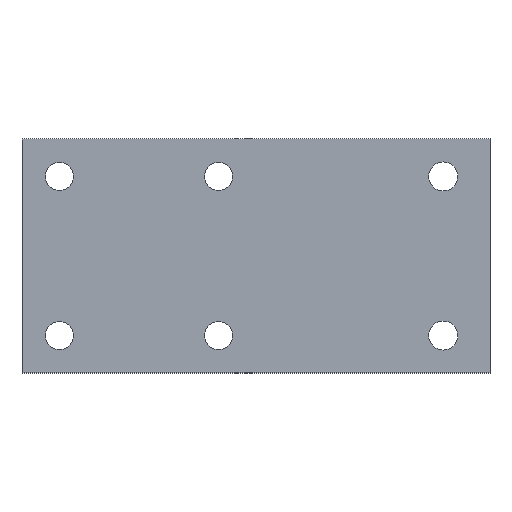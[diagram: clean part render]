
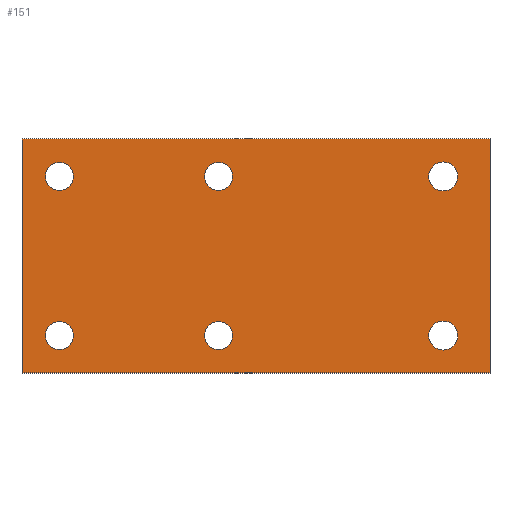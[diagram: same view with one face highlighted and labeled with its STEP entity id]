
A CAD part, top view. The second image highlights one B-rep face of the part: STEP entity #151.
In plain terms, the highlighted planar face has unit normal (0, 0, 1).
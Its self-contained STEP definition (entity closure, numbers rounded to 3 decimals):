
#1 = DIRECTION ( 'NONE',  ( 0., 0., 1. ) ) ;
#3 = ORIENTED_EDGE ( 'NONE', *, *, #100, .T. ) ;
#11 = CARTESIAN_POINT ( 'NONE',  ( 4., 21., 0.3 ) ) ;
#30 = VERTEX_POINT ( 'NONE', #414 ) ;
#31 = DIRECTION ( 'NONE',  ( 1., 0., 0. ) ) ;
#37 = CIRCLE ( 'NONE', #263, 1.5 ) ;
#43 = CARTESIAN_POINT ( 'NONE',  ( 0., 0., 0.3 ) ) ;
#45 = DIRECTION ( 'NONE',  ( 1., 0., 0. ) ) ;
#46 = DIRECTION ( 'NONE',  ( 1., 0., 0. ) ) ;
#51 = AXIS2_PLACEMENT_3D ( 'NONE', #595, #477, #121 ) ;
#55 = CARTESIAN_POINT ( 'NONE',  ( 5.5, 21., 0.3 ) ) ;
#57 = CARTESIAN_POINT ( 'NONE',  ( 0., 25., 0.3 ) ) ;
#60 = VERTEX_POINT ( 'NONE', #202 ) ;
#74 = VERTEX_POINT ( 'NONE', #57 ) ;
#79 = DIRECTION ( 'NONE',  ( 1., 0., 0. ) ) ;
#83 = EDGE_CURVE ( 'NONE', #353, #119, #613, .T. ) ;
#91 = AXIS2_PLACEMENT_3D ( 'NONE', #421, #113, #375 ) ;
#92 = VECTOR ( 'NONE', #361, 1000. ) ;
#93 = CIRCLE ( 'NONE', #456, 1.55 ) ;
#97 = CARTESIAN_POINT ( 'NONE',  ( 43.45, 4., 0.3 ) ) ;
#98 = CARTESIAN_POINT ( 'NONE',  ( 0., 0., 0.3 ) ) ;
#100 = EDGE_CURVE ( 'NONE', #223, #296, #410, .T. ) ;
#101 = CARTESIAN_POINT ( 'NONE',  ( 0., 25., 0.3 ) ) ;
#108 = AXIS2_PLACEMENT_3D ( 'NONE', #582, #342, #550 ) ;
#113 = DIRECTION ( 'NONE',  ( 0., 0., 1. ) ) ;
#115 = CIRCLE ( 'NONE', #596, 1.5 ) ;
#117 = DIRECTION ( 'NONE',  ( 0., 0., 1. ) ) ;
#119 = VERTEX_POINT ( 'NONE', #487 ) ;
#121 = DIRECTION ( 'NONE',  ( 1., 0., 0. ) ) ;
#124 = DIRECTION ( 'NONE',  ( -1., 0., 0. ) ) ;
#125 = CIRCLE ( 'NONE', #404, 1.5 ) ;
#128 = LINE ( 'NONE', #101, #408 ) ;
#134 = DIRECTION ( 'NONE',  ( 0., 0., 1. ) ) ;
#135 = ORIENTED_EDGE ( 'NONE', *, *, #292, .T. ) ;
#137 = EDGE_LOOP ( 'NONE', ( #335, #578 ) ) ;
#138 = VERTEX_POINT ( 'NONE', #225 ) ;
#143 = AXIS2_PLACEMENT_3D ( 'NONE', #645, #117, #79 ) ;
#151 = ADVANCED_FACE ( 'NONE', ( #333, #586, #649, #636, #215, #379, #175 ), #433, .F. ) ;
#152 = EDGE_CURVE ( 'NONE', #446, #552, #196, .T. ) ;
#161 = ORIENTED_EDGE ( 'NONE', *, *, #671, .F. ) ;
#166 = CARTESIAN_POINT ( 'NONE',  ( 50., 0., 0.3 ) ) ;
#172 = EDGE_CURVE ( 'NONE', #558, #395, #436, .T. ) ;
#175 = FACE_BOUND ( 'NONE', #508, .T. ) ;
#179 = ORIENTED_EDGE ( 'NONE', *, *, #250, .F. ) ;
#180 = CIRCLE ( 'NONE', #444, 1.55 ) ;
#189 = ORIENTED_EDGE ( 'NONE', *, *, #585, .F. ) ;
#192 = ORIENTED_EDGE ( 'NONE', *, *, #300, .F. ) ;
#196 = CIRCLE ( 'NONE', #143, 1.5 ) ;
#197 = EDGE_CURVE ( 'NONE', #281, #370, #317, .T. ) ;
#202 = CARTESIAN_POINT ( 'NONE',  ( 22.5, 4., 0.3 ) ) ;
#205 = AXIS2_PLACEMENT_3D ( 'NONE', #11, #219, #675 ) ;
#206 = CARTESIAN_POINT ( 'NONE',  ( 50., 25., 0.3 ) ) ;
#215 = FACE_BOUND ( 'NONE', #547, .T. ) ;
#218 = DIRECTION ( 'NONE',  ( 0., 0., 1. ) ) ;
#219 = DIRECTION ( 'NONE',  ( 0., 0., 1. ) ) ;
#220 = EDGE_CURVE ( 'NONE', #60, #30, #525, .T. ) ;
#222 = EDGE_CURVE ( 'NONE', #370, #281, #236, .T. ) ;
#223 = VERTEX_POINT ( 'NONE', #406 ) ;
#225 = CARTESIAN_POINT ( 'NONE',  ( 2.5, 4., 0.3 ) ) ;
#227 = ORIENTED_EDGE ( 'NONE', *, *, #616, .T. ) ;
#236 = CIRCLE ( 'NONE', #205, 1.5 ) ;
#240 = EDGE_LOOP ( 'NONE', ( #651, #663 ) ) ;
#245 = ORIENTED_EDGE ( 'NONE', *, *, #220, .F. ) ;
#250 = EDGE_CURVE ( 'NONE', #552, #446, #125, .T. ) ;
#263 = AXIS2_PLACEMENT_3D ( 'NONE', #570, #461, #45 ) ;
#270 = ORIENTED_EDGE ( 'NONE', *, *, #172, .F. ) ;
#273 = CARTESIAN_POINT ( 'NONE',  ( 45., 21., 0.3 ) ) ;
#281 = VERTEX_POINT ( 'NONE', #55 ) ;
#285 = VERTEX_POINT ( 'NONE', #678 ) ;
#286 = DIRECTION ( 'NONE',  ( 0., 0., 1. ) ) ;
#292 = EDGE_CURVE ( 'NONE', #74, #391, #513, .T. ) ;
#296 = VERTEX_POINT ( 'NONE', #206 ) ;
#300 = EDGE_CURVE ( 'NONE', #30, #60, #37, .T. ) ;
#305 = CARTESIAN_POINT ( 'NONE',  ( 2.5, 21., 0.3 ) ) ;
#309 = DIRECTION ( 'NONE',  ( 1., 0., 0. ) ) ;
#310 = CARTESIAN_POINT ( 'NONE',  ( 43.45, 21., 0.3 ) ) ;
#311 = DIRECTION ( 'NONE',  ( 1., 0., 0. ) ) ;
#316 = CIRCLE ( 'NONE', #646, 1.5 ) ;
#317 = CIRCLE ( 'NONE', #622, 1.5 ) ;
#320 = AXIS2_PLACEMENT_3D ( 'NONE', #389, #483, #429 ) ;
#326 = CARTESIAN_POINT ( 'NONE',  ( 22.5, 21., 0.3 ) ) ;
#333 = FACE_OUTER_BOUND ( 'NONE', #449, .T. ) ;
#335 = ORIENTED_EDGE ( 'NONE', *, *, #222, .F. ) ;
#337 = DIRECTION ( 'NONE',  ( 1., 0., 0. ) ) ;
#342 = DIRECTION ( 'NONE',  ( 0., 0., -1. ) ) ;
#343 = VECTOR ( 'NONE', #499, 1000. ) ;
#344 = EDGE_LOOP ( 'NONE', ( #161, #270 ) ) ;
#346 = EDGE_CURVE ( 'NONE', #391, #223, #418, .T. ) ;
#353 = VERTEX_POINT ( 'NONE', #97 ) ;
#361 = DIRECTION ( 'NONE',  ( 1., 0., 0. ) ) ;
#362 = DIRECTION ( 'NONE',  ( 1., 0., 0. ) ) ;
#370 = VERTEX_POINT ( 'NONE', #305 ) ;
#372 = CARTESIAN_POINT ( 'NONE',  ( 0., 0., 0.3 ) ) ;
#375 = DIRECTION ( 'NONE',  ( 1., 0., 0. ) ) ;
#376 = EDGE_CURVE ( 'NONE', #285, #138, #316, .T. ) ;
#379 = FACE_BOUND ( 'NONE', #344, .T. ) ;
#387 = DIRECTION ( 'NONE',  ( 0., 0., 1. ) ) ;
#389 = CARTESIAN_POINT ( 'NONE',  ( 21., 4., 0.3 ) ) ;
#391 = VERTEX_POINT ( 'NONE', #98 ) ;
#395 = VERTEX_POINT ( 'NONE', #310 ) ;
#404 = AXIS2_PLACEMENT_3D ( 'NONE', #469, #1, #309 ) ;
#406 = CARTESIAN_POINT ( 'NONE',  ( 50., 0., 0.3 ) ) ;
#408 = VECTOR ( 'NONE', #124, 1000. ) ;
#409 = CARTESIAN_POINT ( 'NONE',  ( 4., 4., 0.3 ) ) ;
#410 = LINE ( 'NONE', #166, #343 ) ;
#414 = CARTESIAN_POINT ( 'NONE',  ( 19.5, 4., 0.3 ) ) ;
#415 = DIRECTION ( 'NONE',  ( 0., -1., 0. ) ) ;
#418 = LINE ( 'NONE', #372, #92 ) ;
#421 = CARTESIAN_POINT ( 'NONE',  ( 45., 4., 0.3 ) ) ;
#428 = CARTESIAN_POINT ( 'NONE',  ( 4., 4., 0.3 ) ) ;
#429 = DIRECTION ( 'NONE',  ( 1., 0., 0. ) ) ;
#433 = PLANE ( 'NONE',  #108 ) ;
#436 = CIRCLE ( 'NONE', #51, 1.55 ) ;
#444 = AXIS2_PLACEMENT_3D ( 'NONE', #504, #134, #31 ) ;
#446 = VERTEX_POINT ( 'NONE', #326 ) ;
#449 = EDGE_LOOP ( 'NONE', ( #135, #490, #3, #227 ) ) ;
#456 = AXIS2_PLACEMENT_3D ( 'NONE', #273, #218, #311 ) ;
#461 = DIRECTION ( 'NONE',  ( 0., 0., 1. ) ) ;
#469 = CARTESIAN_POINT ( 'NONE',  ( 21., 21., 0.3 ) ) ;
#477 = DIRECTION ( 'NONE',  ( 0., 0., 1. ) ) ;
#483 = DIRECTION ( 'NONE',  ( 0., 0., 1. ) ) ;
#487 = CARTESIAN_POINT ( 'NONE',  ( 46.55, 4., 0.3 ) ) ;
#490 = ORIENTED_EDGE ( 'NONE', *, *, #346, .T. ) ;
#499 = DIRECTION ( 'NONE',  ( 0., 1., 0. ) ) ;
#504 = CARTESIAN_POINT ( 'NONE',  ( 45., 4., 0.3 ) ) ;
#506 = ORIENTED_EDGE ( 'NONE', *, *, #152, .F. ) ;
#507 = CARTESIAN_POINT ( 'NONE',  ( 19.5, 21., 0.3 ) ) ;
#508 = EDGE_LOOP ( 'NONE', ( #643, #189 ) ) ;
#513 = LINE ( 'NONE', #43, #615 ) ;
#525 = CIRCLE ( 'NONE', #320, 1.5 ) ;
#540 = CARTESIAN_POINT ( 'NONE',  ( 4., 21., 0.3 ) ) ;
#547 = EDGE_LOOP ( 'NONE', ( #192, #245 ) ) ;
#550 = DIRECTION ( 'NONE',  ( -1., 0., 0. ) ) ;
#552 = VERTEX_POINT ( 'NONE', #507 ) ;
#558 = VERTEX_POINT ( 'NONE', #609 ) ;
#570 = CARTESIAN_POINT ( 'NONE',  ( 21., 4., 0.3 ) ) ;
#578 = ORIENTED_EDGE ( 'NONE', *, *, #197, .F. ) ;
#582 = CARTESIAN_POINT ( 'NONE',  ( 0., 0., 0.3 ) ) ;
#585 = EDGE_CURVE ( 'NONE', #119, #353, #180, .T. ) ;
#586 = FACE_BOUND ( 'NONE', #137, .T. ) ;
#592 = EDGE_LOOP ( 'NONE', ( #179, #506 ) ) ;
#595 = CARTESIAN_POINT ( 'NONE',  ( 45., 21., 0.3 ) ) ;
#596 = AXIS2_PLACEMENT_3D ( 'NONE', #428, #286, #46 ) ;
#609 = CARTESIAN_POINT ( 'NONE',  ( 46.55, 21., 0.3 ) ) ;
#613 = CIRCLE ( 'NONE', #91, 1.55 ) ;
#615 = VECTOR ( 'NONE', #415, 1000. ) ;
#616 = EDGE_CURVE ( 'NONE', #296, #74, #128, .T. ) ;
#622 = AXIS2_PLACEMENT_3D ( 'NONE', #540, #387, #337 ) ;
#623 = DIRECTION ( 'NONE',  ( 0., 0., 1. ) ) ;
#636 = FACE_BOUND ( 'NONE', #592, .T. ) ;
#643 = ORIENTED_EDGE ( 'NONE', *, *, #83, .F. ) ;
#645 = CARTESIAN_POINT ( 'NONE',  ( 21., 21., 0.3 ) ) ;
#646 = AXIS2_PLACEMENT_3D ( 'NONE', #409, #623, #362 ) ;
#649 = FACE_BOUND ( 'NONE', #240, .T. ) ;
#651 = ORIENTED_EDGE ( 'NONE', *, *, #669, .F. ) ;
#663 = ORIENTED_EDGE ( 'NONE', *, *, #376, .F. ) ;
#669 = EDGE_CURVE ( 'NONE', #138, #285, #115, .T. ) ;
#671 = EDGE_CURVE ( 'NONE', #395, #558, #93, .T. ) ;
#675 = DIRECTION ( 'NONE',  ( 1., 0., 0. ) ) ;
#678 = CARTESIAN_POINT ( 'NONE',  ( 5.5, 4., 0.3 ) ) ;
